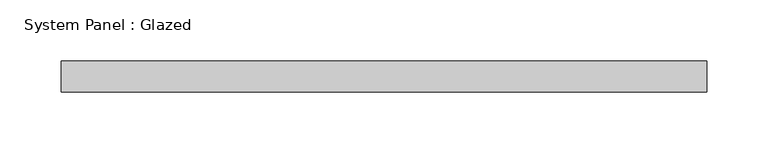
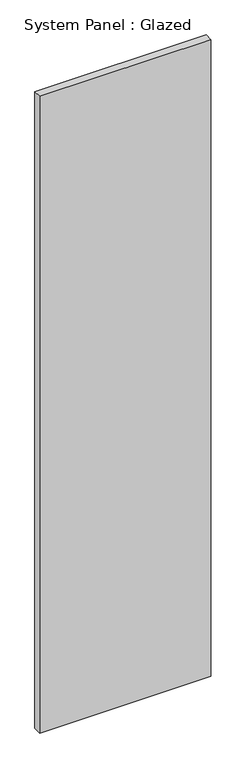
"""IFC4 building model written with IfcOpenShell, lengths in millimetres: plate geometry, System Panel : Glazed."""

from ifc_helpers import new_model, si_unit, origin, origin_with_axes, place, context, project, spatial, polyline, outline, extrude, source, transform, mapped, element, save


def system_panel_glazed_bae44e10(model_context):
    return source(origin(), model_context, "Body", "SweptSolid", [
        extrude(outline(polyline([(263.147598, -44.45), (-263.147598, -44.45), (-263.147598, -19.05), (263.147598, -19.05), (263.147598, -44.45)])), origin_with_axes(), (0.0, 0.0, 1.0), 2070.1),
    ])


if __name__ == "__main__":
    model = new_model("IFC4")
    model_context = context("Model", 3, world=origin())
    ifc_project = project(units=[si_unit("LENGTHUNIT", "METRE", prefix="MILLI")], contexts=[model_context])
    site = spatial("IfcSite", under=ifc_project)
    building = spatial("IfcBuilding", under=site)
    placement = place(None, origin())
    system_panel_glazed_shape = system_panel_glazed_bae44e10(model_context)
    element("IfcPlate", 1, ObjectType="System Panel : Glazed", at=placement, inside=building, context=model_context, shape_type="MappedRepresentation", body=[
        mapped(system_panel_glazed_shape, transform((0.0, 0.0, 0.0), x_axis=(1.0, 0.0, 0.0), y_axis=(0.0, 1.0, 0.0), z_axis=(0.0, 0.0, 1.0))),
    ])
    save(model, "model.ifc")
